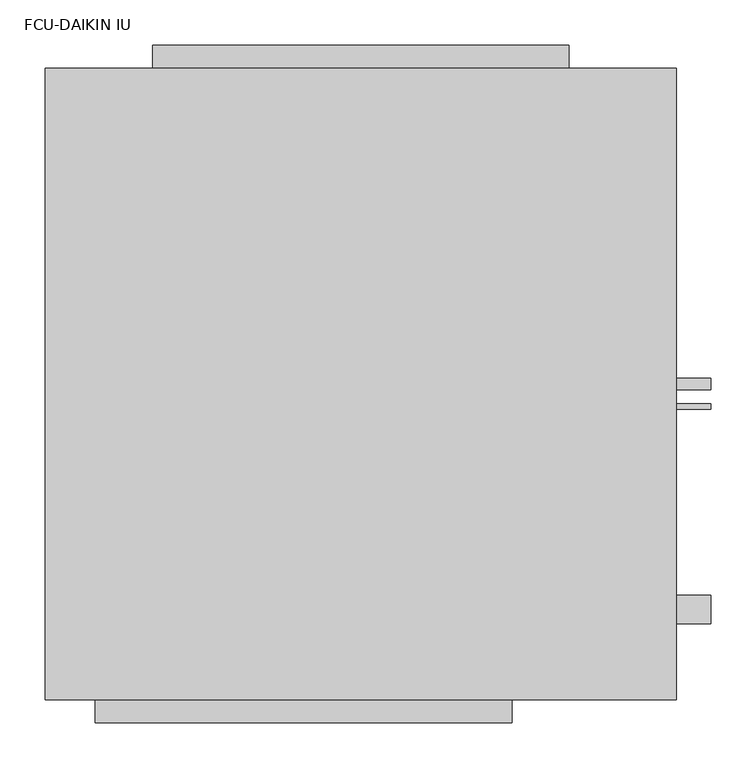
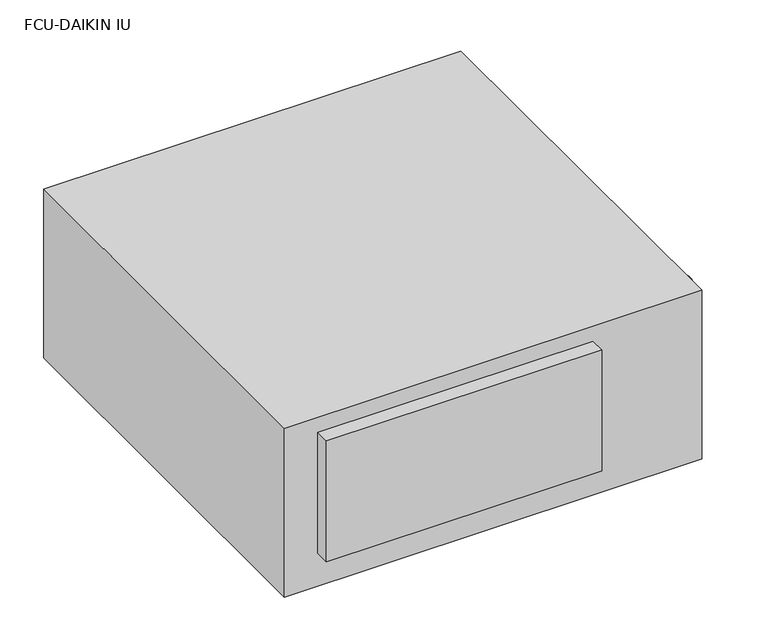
"""IFC4 building model written with IfcOpenShell, lengths in millimetres: proxy geometry, FCU-DAIKIN IU : 4.5kW, 230V/50Hz/1Ph."""

import ifcopenshell
import ifcopenshell.guid

model = None  # the IFC model being written
_history = None  # IfcOwnerHistory: only IFC2X3 demands one
_inside = {}  # id of a spatial element -> (the spatial element, [elements in it])
_under = {}  # id of a project, library or spatial element -> (it, [spatial elements below it])
_declared = {}  # id of a project -> (the project, [libraries it declares])
_typed = {}  # id of a type object -> (the type object, [elements of that type])
_made_of = {}  # id of a material, layer set ... -> (it, [elements and type objects made of it])


def new_model(schema):
    """Start an empty IFC model of exactly this schema.

    Asked for "IFC4X3", IfcOpenShell would pick the latest addendum, in which some entities
    have other attributes; the version numbers below select the first issue.
    IFC2X3 requires an IfcOwnerHistory on every rooted entity: one is made here for all.
    """
    global model, _history
    if schema == "IFC4X3":
        model = ifcopenshell.file(schema_version=(4, 3, 0, 0))
    else:
        model = ifcopenshell.file(schema=schema)
    _inside.clear()
    _under.clear()
    _declared.clear()
    _typed.clear()
    _made_of.clear()
    _history = None
    if model.schema == "IFC2X3":
        org = make("IfcOrganization", Name="unknown")
        user = make(
            "IfcPersonAndOrganization",
            ThePerson=make("IfcPerson", FamilyName="unknown"),
            TheOrganization=org,
        )
        app = make(
            "IfcApplication",
            ApplicationDeveloper=org,
            Version="unknown",
            ApplicationFullName="unknown",
            ApplicationIdentifier="unknown",
        )
        _history = make(
            "IfcOwnerHistory",
            OwningUser=user,
            OwningApplication=app,
            ChangeAction="ADDED",
            CreationDate=0,
        )
    return model


def make(cls, **values):
    """One entity of the class cls with the attributes given. An attribute that is None is left unset."""
    return model.create_entity(
        cls, **{name: value for name, value in values.items() if value is not None}
    )


def rooted(cls, **values):
    """An entity with a GlobalId (a new one), such as an element, a storey or a relation."""
    return make(cls, GlobalId=ifcopenshell.guid.new(), OwnerHistory=_history, **values)


def si_unit(unit_type, name, prefix=None):
    """IfcSIUnit, for example si_unit("LENGTHUNIT", "METRE", prefix="MILLI")."""
    return make("IfcSIUnit", UnitType=unit_type, Prefix=prefix, Name=name)


def assignment(units):
    """IfcUnitAssignment: the units of a project."""
    return None if units is None else make("IfcUnitAssignment", Units=units)


def point(xyz):
    """IfcCartesianPoint."""
    return None if xyz is None else make("IfcCartesianPoint", Coordinates=xyz)


def direction(xyz):
    """IfcDirection."""
    return None if xyz is None else make("IfcDirection", DirectionRatios=xyz)


def frame(location, z_axis=None, x_axis=None):
    """IfcAxis2Placement3D, a coordinate frame: its origin and axes. An axis left out is left unset."""
    return make(
        "IfcAxis2Placement3D",
        Location=point(location),
        Axis=direction(z_axis),
        RefDirection=direction(x_axis),
    )


def frame_2d(location, x_axis=None):
    """IfcAxis2Placement2D, a coordinate frame in the plane: its origin and x axis."""
    return make(
        "IfcAxis2Placement2D", Location=point(location), RefDirection=direction(x_axis)
    )


def origin():
    """The frame at (0, 0, 0) with its axes left unset."""
    return frame((0.0, 0.0, 0.0))


def origin_with_axes():
    """The frame at (0, 0, 0) with the z axis (0, 0, 1) and the x axis (1, 0, 0) written out."""
    return frame((0.0, 0.0, 0.0), z_axis=(0.0, 0.0, 1.0), x_axis=(1.0, 0.0, 0.0))


def place(relative_to, where):
    """IfcLocalPlacement: puts the frame where relative to a parent placement (None: the world)."""
    return make(
        "IfcLocalPlacement", PlacementRelTo=relative_to, RelativePlacement=where
    )


def context(
    kind, dimensions, precision=None, world=None, true_north=None, identifier=None
):
    """IfcGeometricRepresentationContext, for example the 3D "Model" context."""
    return make(
        "IfcGeometricRepresentationContext",
        ContextIdentifier=identifier,
        ContextType=kind,
        CoordinateSpaceDimension=dimensions,
        Precision=precision,
        WorldCoordinateSystem=world,
        TrueNorth=true_north,
    )


def project(units=None, contexts=None):
    """IfcProject with its units and contexts."""
    return rooted(
        "IfcProject",
        Name="project",
        RepresentationContexts=contexts,
        UnitsInContext=assignment(units),
    )


def spatial(cls, under=None, at=None, **own):
    """A site, building, storey or space (cls), placed at a placement, below another one or the project."""
    s = rooted(cls, ObjectPlacement=at, **own)
    if under is not None:
        _under.setdefault(under.id(), (under, []))[1].append(s)
    return s


def polyline(points):
    """IfcPolyline through the points."""
    return make("IfcPolyline", Points=[point(p) for p in points])


def circle_curve(where, radius):
    """IfcCircle in the frame where."""
    return make("IfcCircle", Position=where, Radius=radius)


def trimmed(basis, trim1, trim2, sense, master):
    """IfcTrimmedCurve: the piece of a basis curve between two trims."""
    return make(
        "IfcTrimmedCurve",
        BasisCurve=basis,
        Trim1=trim1,
        Trim2=trim2,
        SenseAgreement=sense,
        MasterRepresentation=master,
    )


def segment(curve, same_sense, transition):
    """IfcCompositeCurveSegment."""
    return make(
        "IfcCompositeCurveSegment",
        Transition=transition,
        SameSense=same_sense,
        ParentCurve=curve,
    )


def composite_curve(segments, self_intersect=None):
    """IfcCompositeCurve: segments joined end to end."""
    return make("IfcCompositeCurve", Segments=segments, SelfIntersect=self_intersect)


def outline(outer, holes=None, kind="AREA"):
    """IfcArbitraryClosedProfileDef: a profile drawn as a closed curve; with holes, ...WithVoids."""
    if holes is None:
        return make("IfcArbitraryClosedProfileDef", ProfileType=kind, OuterCurve=outer)
    return make(
        "IfcArbitraryProfileDefWithVoids",
        ProfileType=kind,
        OuterCurve=outer,
        InnerCurves=holes,
    )


def extrude(swept, where, along, depth):
    """IfcExtrudedAreaSolid: the profile swept, set in the frame where, extruded along a direction by depth."""
    return make(
        "IfcExtrudedAreaSolid",
        SweptArea=swept,
        Position=where,
        ExtrudedDirection=direction(along),
        Depth=depth,
    )


def shape(context_of_items, identifier, shape_type, items):
    """IfcShapeRepresentation: the items that make up one representation, for example the "Body"."""
    return make(
        "IfcShapeRepresentation",
        ContextOfItems=context_of_items,
        RepresentationIdentifier=identifier,
        RepresentationType=shape_type,
        Items=items,
    )


def source(mapping_origin, context_of_items, identifier, shape_type, items):
    """IfcRepresentationMap: a shape defined once, which mapped items show again and again."""
    return make(
        "IfcRepresentationMap",
        MappingOrigin=mapping_origin,
        MappedRepresentation=shape(context_of_items, identifier, shape_type, items),
    )


def transform(
    local_origin,
    x_axis=None,
    y_axis=None,
    z_axis=None,
    scale=None,
    scale2=None,
    scale3=None,
    uniform=True,
):
    """IfcCartesianTransformationOperator3D, or its non-uniform kind. x_axis, y_axis, z_axis: its Axis1, 2, 3."""
    if uniform:
        return make(
            "IfcCartesianTransformationOperator3D",
            Axis1=direction(x_axis),
            Axis2=direction(y_axis),
            LocalOrigin=point(local_origin),
            Scale=scale,
            Axis3=direction(z_axis),
        )
    return make(
        "IfcCartesianTransformationOperator3DnonUniform",
        Axis1=direction(x_axis),
        Axis2=direction(y_axis),
        LocalOrigin=point(local_origin),
        Scale=scale,
        Axis3=direction(z_axis),
        Scale2=scale2,
        Scale3=scale3,
    )


def mapped(mapping_source, mapping_target):
    """IfcMappedItem: shows the shape of a source again, moved by a transform."""
    return make(
        "IfcMappedItem", MappingSource=mapping_source, MappingTarget=mapping_target
    )


def made_of(thing, what):
    """Note that an element or type object is made of a material, layer set ...; save() writes the relation."""
    if what is not None:
        _made_of.setdefault(what.id(), (what, []))[1].append(thing)
    return thing


def element(
    cls,
    number,
    at=None,
    inside=None,
    cuts=None,
    type_object=None,
    material=None,
    context=None,
    identifier="Body",
    shape_type=None,
    held_by="IfcProductDefinitionShape",
    body=None,
    shapes=None,
    **own,
):
    """One element of the class cls, such as IfcWall. Its Tag is "e" and its number.

    at: its placement. inside: the storey or other place that contains it. cuts: it is an
    opening in that element (IfcRelVoidsElement). A single representation is given by context,
    identifier, shape_type and body (its items); several are given by shapes. held_by: the class
    of the entity that holds the representations. save() writes the other relations.
    """
    e = rooted(cls, Tag="e%d" % number, ObjectPlacement=at, **own)
    if body is not None:
        shapes = [shape(context, identifier, shape_type, body)]
    if shapes is not None:
        e.Representation = make(held_by, Representations=shapes)
    if inside is not None:
        _inside.setdefault(inside.id(), (inside, []))[1].append(e)
    if cuts is not None:
        rooted(
            "IfcRelVoidsElement", RelatingBuildingElement=cuts, RelatedOpeningElement=e
        )
    if type_object is not None:
        _typed.setdefault(type_object.id(), (type_object, []))[1].append(e)
    return made_of(e, material)


def aggregate(whole, parts):
    """IfcRelAggregates: a whole, such as a stair, and the parts it consists of."""
    return rooted("IfcRelAggregates", RelatingObject=whole, RelatedObjects=parts)


def save(model, path):
    """Write the relations noted so far, then the file.

    IfcRelAggregates (storeys below a building ...), IfcRelContainedInSpatialStructure (elements
    in a storey), IfcRelDefinesByType, IfcRelAssociatesMaterial and IfcRelDeclares: one each for
    every whole, place, type object, material and project.
    """
    for whole, parts in _under.values():
        aggregate(whole, parts)
    for where, things in _inside.values():
        rooted(
            "IfcRelContainedInSpatialStructure",
            RelatedElements=things,
            RelatingStructure=where,
        )
    for kind, things in _typed.values():
        rooted("IfcRelDefinesByType", RelatedObjects=things, RelatingType=kind)
    for what, things in _made_of.values():
        rooted("IfcRelAssociatesMaterial", RelatedObjects=things, RelatingMaterial=what)
    for by, libraries in _declared.values():
        rooted("IfcRelDeclares", RelatingContext=by, RelatedDefinitions=libraries)
    model.write(path)


def fcu_daikin_iu_bad131e0(model_context):
    return source(origin(), model_context, "Body", "SweptSolid", [
        extrude(outline(polyline([(230.9375, 350.0), (-230.9375, 350.0), (-230.9375, 375.4), (230.9375, 375.4), (230.9375, 350.0)])), frame((0.0, 0.0, 34.05), z_axis=(0.0, 0.0, 1.0), x_axis=(1.0, 0.0, 0.0)), (0.0, 0.0, 1.0), 214.3),
        extrude(outline(composite_curve([segment(trimmed(circle_curve(frame_2d((-250.0, 233.3)), 15.9), [point((-265.9, 233.3))], [point((-234.1, 233.3))], False, "CARTESIAN"), True, "CONTINUOUS"), segment(trimmed(circle_curve(frame_2d((-250.0, 233.3)), 15.9), [point((-234.1, 233.3))], [point((-265.9, 233.3))], False, "CARTESIAN"), True, "CONTINUOUS")], self_intersect=False)), frame((350.0, 0.0, 0.0), z_axis=(1.0, 0.0, 0.0), x_axis=(0.0, 1.0, 0.0)), (0.0, 0.0, 1.0), 38.1),
        extrude(outline(composite_curve([segment(trimmed(circle_curve(frame_2d((0.0, 100.0)), 6.35), [point((-6.35, 100.0))], [point((6.35, 100.0))], False, "CARTESIAN"), True, "CONTINUOUS"), segment(trimmed(circle_curve(frame_2d((0.0, 100.0)), 6.35), [point((6.35, 100.0))], [point((-6.35, 100.0))], False, "CARTESIAN"), True, "CONTINUOUS")], self_intersect=False)), frame((350.0, 0.0, 0.0), z_axis=(1.0, 0.0, 0.0), x_axis=(0.0, 1.0, 0.0)), (0.0, 0.0, 1.0), 38.1),
        extrude(outline(composite_curve([segment(trimmed(circle_curve(frame_2d((-25.0, 150.8)), 3.2), [point((-28.2, 150.8))], [point((-21.8, 150.8))], False, "CARTESIAN"), True, "CONTINUOUS"), segment(trimmed(circle_curve(frame_2d((-25.0, 150.8)), 3.2), [point((-21.8, 150.8))], [point((-28.2, 150.8))], False, "CARTESIAN"), True, "CONTINUOUS")], self_intersect=False)), frame((350.0, 0.0, 0.0), z_axis=(1.0, 0.0, 0.0), x_axis=(0.0, 1.0, 0.0)), (0.0, 0.0, 1.0), 38.1),
        extrude(outline(polyline([(167.4375, -375.4), (-294.4375, -375.4), (-294.4375, -350.0), (167.4375, -350.0), (167.4375, -375.4)])), frame((0.0, 0.0, 58.775), z_axis=(0.0, 0.0, 1.0), x_axis=(1.0, 0.0, 0.0)), (0.0, 0.0, 1.0), 214.275),
        extrude(outline(polyline([(350.0, -350.0), (-350.0, -350.0), (-350.0, 350.0), (350.0, 350.0), (350.0, -350.0)])), origin_with_axes(), (0.0, 0.0, 1.0), 300.0),
    ])


if __name__ == "__main__":
    model = new_model("IFC4")
    model_context = context("Model", 3, world=origin())
    ifc_project = project(units=[si_unit("LENGTHUNIT", "METRE", prefix="MILLI")], contexts=[model_context])
    site = spatial("IfcSite", under=ifc_project)
    building = spatial("IfcBuilding", under=site)
    placement = place(None, origin())
    fcu_daikin_iu_shape = fcu_daikin_iu_bad131e0(model_context)
    element("IfcBuildingElementProxy", 1, Name="FCU-DAIKIN IU : 4.5kW, 230V/50Hz/1Ph", ObjectType="FCU-DAIKIN IU : 4.5kW, 230V/50Hz/1Ph", at=placement, inside=building, context=model_context, shape_type="MappedRepresentation", body=[
        mapped(fcu_daikin_iu_shape, transform((0.0, 0.0, 0.0), x_axis=(1.0, 0.0, 0.0), y_axis=(0.0, 1.0, 0.0), z_axis=(0.0, 0.0, 1.0))),
    ])
    save(model, "model.ifc")
